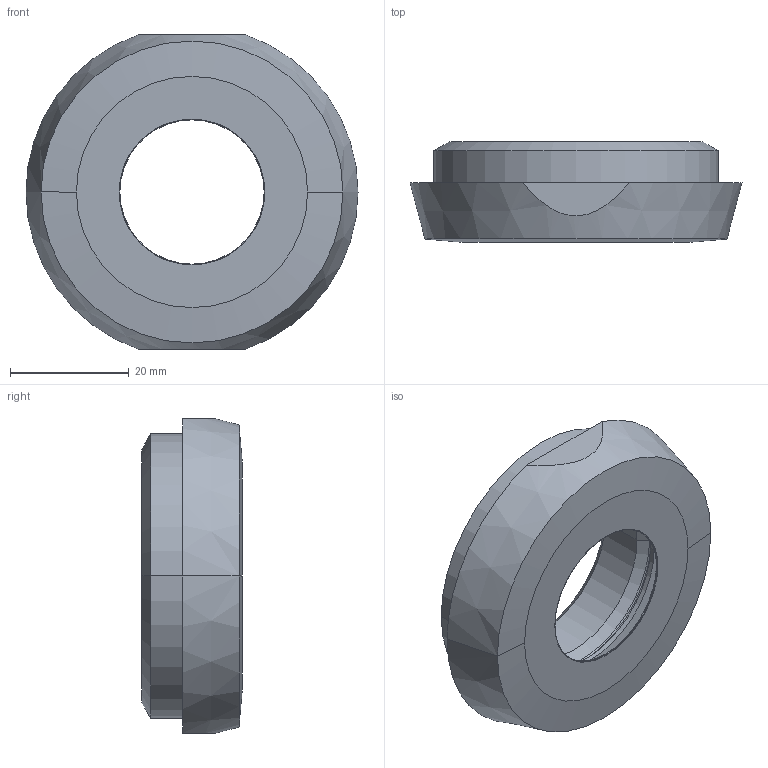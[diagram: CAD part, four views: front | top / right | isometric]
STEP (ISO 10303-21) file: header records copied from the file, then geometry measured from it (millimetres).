
FILE_DESCRIPTION( ( '' ), '1' );
FILE_NAME( '//expscmdclustefs.cadenas.external/client_exchange/iodir/jobs/output/wkb55042431_no0/STEP/E33712_204.stp', '2013-03-01T12:08:31', ( '' ), ( '' ), ' ', ' ', ' ' );
FILE_SCHEMA( ( 'CONFIG_CONTROL_DESIGN' ) );
Length unit declared in the file: millimetre
Products named in the file (1): 1
Bounding box: 56 x 16.91 x 53 mm (x, y, z)
Volume: 21061 mm3; surface area: 8483.9 mm2
Topology: 1 solids, 1 shells, 53 faces, 133 edges, 85 vertices
Faces by surface type: cone 20, torus 18, cylinder 8, plane 7
Entity records: 1686 total; most frequent: DIRECTION 340, CARTESIAN_POINT 276, ORIENTED_EDGE 266, AXIS2_PLACEMENT_3D 155, EDGE_CURVE 133, CIRCLE 101, VERTEX_POINT 85, EDGE_LOOP 58
